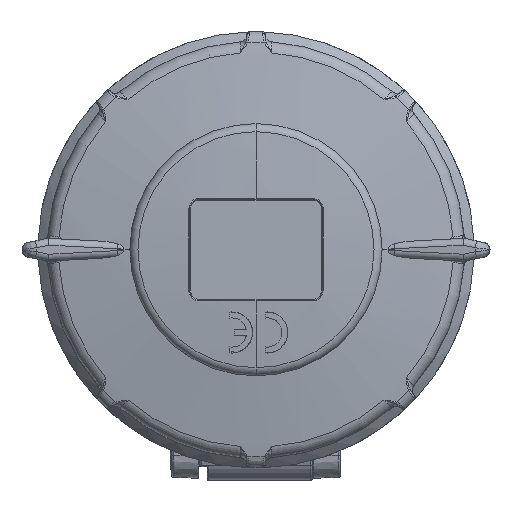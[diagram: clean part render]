
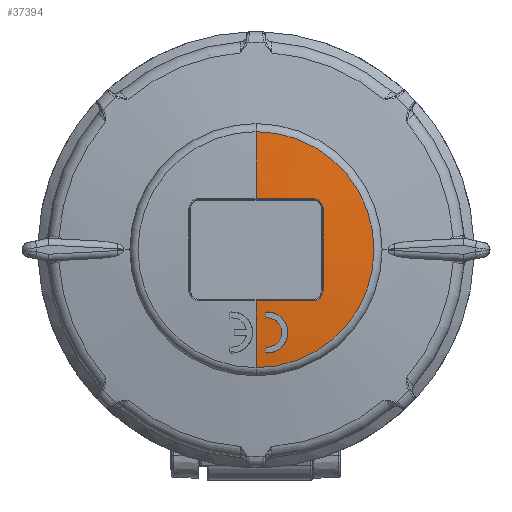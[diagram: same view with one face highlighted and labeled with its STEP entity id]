
A CAD part, top view. The second image highlights one B-rep face of the part: STEP entity #37394.
In plain terms, the highlighted spherical face has radius 232.5 mm.
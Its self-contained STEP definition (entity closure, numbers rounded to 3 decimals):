
#3078=CARTESIAN_POINT('',(0.,11.21,-217.065));
#3079=DIRECTION('',(0.,1.,0.));
#3080=DIRECTION('',(0.,0.,1.));
#3081=AXIS2_PLACEMENT_3D('',#3078,#3079,#3080);
#3083=CARTESIAN_POINT('',(0.,0.,13.991));
#3084=DIRECTION('',(0.,0.,1.));
#3085=DIRECTION('',(0.,-1.,0.));
#3086=AXIS2_PLACEMENT_3D('',#3083,#3084,#3085);
#3088=CARTESIAN_POINT('',(0.,-11.21,-217.065));
#3089=DIRECTION('',(0.,-1.,0.));
#3090=DIRECTION('',(0.054,0.,0.999));
#3091=AXIS2_PLACEMENT_3D('',#3088,#3089,#3090);
#3093=CARTESIAN_POINT('',(14.713,-9.008,14.795));
#3094=CARTESIAN_POINT('',(14.713,-9.152,14.789));
#3095=CARTESIAN_POINT('',(14.685,-9.437,14.779));
#3096=CARTESIAN_POINT('',(14.559,-9.854,14.77));
#3097=CARTESIAN_POINT('',(14.354,-10.237,14.766));
#3098=CARTESIAN_POINT('',(14.079,-10.573,14.768));
#3099=CARTESIAN_POINT('',(13.743,-10.849,14.775));
#3100=CARTESIAN_POINT('',(13.36,-11.055,14.788));
#3101=CARTESIAN_POINT('',(12.943,-11.181,14.806));
#3102=CARTESIAN_POINT('',(12.656,-11.21,14.82));
#3103=CARTESIAN_POINT('',(12.511,-11.21,14.828));
#3105=CARTESIAN_POINT('',(14.713,0.,
-217.065));
#3106=DIRECTION('',(1.,0.,0.));
#3107=DIRECTION('',(0.,0.039,0.999));
#3108=AXIS2_PLACEMENT_3D('',#3105,#3106,#3107);
#3110=CARTESIAN_POINT('',(12.511,11.21,14.828));
#3111=CARTESIAN_POINT('',(12.656,11.21,14.82));
#3112=CARTESIAN_POINT('',(12.942,11.181,14.806));
#3113=CARTESIAN_POINT('',(13.358,11.055,14.788));
#3114=CARTESIAN_POINT('',(13.741,10.851,14.775));
#3115=CARTESIAN_POINT('',(14.077,10.576,14.768));
#3116=CARTESIAN_POINT('',(14.353,10.24,14.766));
#3117=CARTESIAN_POINT('',(14.558,9.857,14.77));
#3118=CARTESIAN_POINT('',(14.684,9.44,14.779));
#3119=CARTESIAN_POINT('',(14.713,9.153,14.789));
#3120=CARTESIAN_POINT('',(14.713,9.008,14.795));
#3122=CARTESIAN_POINT('',(2.,-22.634,14.322));
#3123=CARTESIAN_POINT('',(2.253,-22.66,14.318));
#3124=CARTESIAN_POINT('',(2.762,-22.668,14.312));
#3125=CARTESIAN_POINT('',(3.518,-22.551,14.313));
#3126=CARTESIAN_POINT('',(4.243,-22.308,14.324));
#3127=CARTESIAN_POINT('',(4.917,-21.946,14.346));
#3128=CARTESIAN_POINT('',(5.52,-21.476,14.376));
#3129=CARTESIAN_POINT('',(6.036,-20.911,14.415));
#3130=CARTESIAN_POINT('',(6.45,-20.265,14.461));
#3131=CARTESIAN_POINT('',(6.749,-19.56,14.513));
#3132=CARTESIAN_POINT('',(6.924,-18.812,14.57));
#3133=CARTESIAN_POINT('',(6.97,-18.048,14.63));
#3134=CARTESIAN_POINT('',(6.887,-17.283,14.69));
#3135=CARTESIAN_POINT('',(6.673,-16.543,14.751));
#3136=CARTESIAN_POINT('',(6.354,-15.882,14.806));
#3137=CARTESIAN_POINT('',(5.971,-15.33,14.853));
#3138=CARTESIAN_POINT('',(5.541,-14.868,14.894));
#3139=CARTESIAN_POINT('',(5.069,-14.481,14.929));
#3140=CARTESIAN_POINT('',(4.554,-14.163,14.959));
#3141=CARTESIAN_POINT('',(3.988,-13.913,14.985));
#3142=CARTESIAN_POINT('',(3.369,-13.735,15.005));
#3143=CARTESIAN_POINT('',(2.698,-13.646,15.019));
#3144=CARTESIAN_POINT('',(2.234,-13.656,15.023));
#3145=CARTESIAN_POINT('',(2.,-13.68,15.024));
#3147=CARTESIAN_POINT('',(2.,0.,-217.065));
#3148=DIRECTION('',(-1.,0.,0.));
#3149=DIRECTION('',(0.,-0.064,0.998));
#3150=AXIS2_PLACEMENT_3D('',#3147,#3148,#3149);
#3152=CARTESIAN_POINT('',(2.,-14.985,14.943));
#3153=CARTESIAN_POINT('',(2.186,-14.958,14.944));
#3154=CARTESIAN_POINT('',(2.558,-14.939,14.941));
#3155=CARTESIAN_POINT('',(3.1,-15.005,14.93));
#3156=CARTESIAN_POINT('',(3.603,-15.153,14.913));
#3157=CARTESIAN_POINT('',(4.055,-15.37,14.892));
#3158=CARTESIAN_POINT('',(4.458,-15.644,14.866));
#3159=CARTESIAN_POINT('',(4.812,-15.974,14.836));
#3160=CARTESIAN_POINT('',(5.118,-16.359,14.803));
#3161=CARTESIAN_POINT('',(5.37,-16.804,14.765));
#3162=CARTESIAN_POINT('',(5.558,-17.315,14.723));
#3163=CARTESIAN_POINT('',(5.66,-17.881,14.678));
#3164=CARTESIAN_POINT('',(5.657,-18.463,14.632));
#3165=CARTESIAN_POINT('',(5.55,-19.031,14.589));
#3166=CARTESIAN_POINT('',(5.344,-19.573,14.549));
#3167=CARTESIAN_POINT('',(5.044,-20.067,14.513));
#3168=CARTESIAN_POINT('',(4.661,-20.5,14.483));
#3169=CARTESIAN_POINT('',(4.207,-20.857,14.46));
#3170=CARTESIAN_POINT('',(3.697,-21.127,14.444));
#3171=CARTESIAN_POINT('',(3.147,-21.302,14.436));
#3172=CARTESIAN_POINT('',(2.574,-21.376,14.437));
#3173=CARTESIAN_POINT('',(2.19,-21.356,14.442));
#3174=CARTESIAN_POINT('',(2.,-21.329,14.446));
#3176=CARTESIAN_POINT('',(2.,0.,-217.065));
#3177=DIRECTION('',(-1.,0.,0.));
#3178=DIRECTION('',(0.,-0.097,0.995));
#3179=AXIS2_PLACEMENT_3D('',#3176,#3177,#3178);
#3316=CARTESIAN_POINT('',(0.,0.,-217.065));
#3317=DIRECTION('',(-1.,0.,0.));
#3318=DIRECTION('',(0.,-0.111,0.994));
#3319=AXIS2_PLACEMENT_3D('',#3316,#3317,#3318);
#3326=CARTESIAN_POINT('',(0.,0.,-217.065));
#3327=DIRECTION('',(1.,0.,0.));
#3328=DIRECTION('',(0.,0.111,0.994));
#3329=AXIS2_PLACEMENT_3D('',#3326,#3327,#3328);
#27690=CARTESIAN_POINT('',(0.,-25.875,13.991));
#27691=CARTESIAN_POINT('',(0.,25.875,13.991));
#27692=VERTEX_POINT('',#27690);
#27693=VERTEX_POINT('',#27691);
#27698=CARTESIAN_POINT('',(0.,-11.21,15.165));
#27700=VERTEX_POINT('',#27698);
#27711=CARTESIAN_POINT('',(0.,11.21,15.165));
#27712=VERTEX_POINT('',#27711);
#27713=CARTESIAN_POINT('',(12.511,11.21,14.828));
#27714=VERTEX_POINT('',#27713);
#27715=VERTEX_POINT('',#3120);
#27718=CARTESIAN_POINT('',(14.713,-9.008,
14.795));
#27719=VERTEX_POINT('',#27718);
#27722=VERTEX_POINT('',#3103);
#27892=VERTEX_POINT('',#3122);
#27893=VERTEX_POINT('',#3145);
#27894=CARTESIAN_POINT('',(2.,-14.985,14.943));
#27895=VERTEX_POINT('',#27894);
#27896=VERTEX_POINT('',#3174);
#37362=CARTESIAN_POINT('',(0.,0.,-217.065));
#37363=DIRECTION('',(0.,0.,1.));
#37364=DIRECTION('',(0.,-1.,0.));
#37365=AXIS2_PLACEMENT_3D('',#37362,#37363,#37364);
#37366=SPHERICAL_SURFACE('718',#37365,232.5);
#37368=ORIENTED_EDGE('3673',*,*,#37367,.F.);
#37370=ORIENTED_EDGE('3682',*,*,#37369,.F.);
#37371=ORIENTED_EDGE('3659',*,*,#37345,.F.);
#37373=ORIENTED_EDGE('3681',*,*,#37372,.T.);
#37375=ORIENTED_EDGE('3680',*,*,#37374,.F.);
#37377=ORIENTED_EDGE('3678',*,*,#37376,.F.);
#37379=ORIENTED_EDGE('3676',*,*,#37378,.F.);
#37381=ORIENTED_EDGE('3674',*,*,#37380,.F.);
#37382=EDGE_LOOP('718',(#37368,#37370,#37371,#37373,#37375,#37377,#37379,
#37381));
#37383=FACE_OUTER_BOUND('718',#37382,.F.);
#37385=ORIENTED_EDGE('3827',*,*,#37384,.T.);
#37387=ORIENTED_EDGE('3828',*,*,#37386,.F.);
#37389=ORIENTED_EDGE('3829',*,*,#37388,.T.);
#37391=ORIENTED_EDGE('3830',*,*,#37390,.F.);
#37392=EDGE_LOOP('718',(#37385,#37387,#37389,#37391));
#37393=FACE_BOUND('718',#37392,.F.);
#3082=CIRCLE('3673',#3081,232.23);
#3087=CIRCLE('3659',#3086,25.875);
#3092=CIRCLE('3680',#3091,232.23);
#3104=B_SPLINE_CURVE_WITH_KNOTS('3678',3,(#3093,#3094,#3095,#3096,#3097,#3098,
#3099,#3100,#3101,#3102,#3103),.UNSPECIFIED.,.F.,.F.,(4,1,1,1,1,1,1,1,4),(0.,
0.125,0.25,0.375,0.5,0.625,0.75,0.875,1.),.UNSPECIFIED.);
#3109=CIRCLE('3676',#3108,232.034);
#3121=B_SPLINE_CURVE_WITH_KNOTS('3674',3,(#3110,#3111,#3112,#3113,#3114,#3115,
#3116,#3117,#3118,#3119,#3120),.UNSPECIFIED.,.F.,.F.,(4,1,1,1,1,1,1,1,4),(0.,
0.125,0.25,0.375,0.5,0.625,0.75,0.875,1.),.UNSPECIFIED.);
#3146=B_SPLINE_CURVE_WITH_KNOTS('3827',3,(#3122,#3123,#3124,#3125,#3126,#3127,
#3128,#3129,#3130,#3131,#3132,#3133,#3134,#3135,#3136,#3137,#3138,#3139,#3140,
#3141,#3142,#3143,#3144,#3145),.UNSPECIFIED.,.F.,.F.,(4,1,1,1,1,1,1,1,1,1,1,1,1,
1,1,1,1,1,1,1,1,4),(0.,0.048,0.095,0.143,
0.19,0.238,0.286,0.333,
0.381,0.429,0.476,0.524,
0.571,0.619,0.667,0.714,
0.762,0.81,0.857,0.905,
0.952,1.),.UNSPECIFIED.);
#3151=CIRCLE('3828',#3150,232.491);
#3175=B_SPLINE_CURVE_WITH_KNOTS('3829',3,(#3152,#3153,#3154,#3155,#3156,#3157,
#3158,#3159,#3160,#3161,#3162,#3163,#3164,#3165,#3166,#3167,#3168,#3169,#3170,
#3171,#3172,#3173,#3174),.UNSPECIFIED.,.F.,.F.,(4,1,1,1,1,1,1,1,1,1,1,1,1,1,1,1,
1,1,1,1,4),(0.,0.05,0.1,0.15,0.2,0.25,0.3,0.35,0.4,0.45,
0.5,0.55,0.6,0.65,0.7,0.75,0.8,0.85,0.9,0.95,1.),
.UNSPECIFIED.);
#3180=CIRCLE('3830',#3179,232.491);
#3320=CIRCLE('3681',#3319,232.5);
#3330=CIRCLE('3682',#3329,232.5);
#37345=EDGE_CURVE('3659',#27692,#27693,#3087,.T.);
#37367=EDGE_CURVE('3673',#27712,#27714,#3082,.T.);
#37369=EDGE_CURVE('3682',#27693,#27712,#3330,.T.);
#37372=EDGE_CURVE('3681',#27692,#27700,#3320,.T.);
#37374=EDGE_CURVE('3680',#27722,#27700,#3092,.T.);
#37376=EDGE_CURVE('3678',#27719,#27722,#3104,.T.);
#37378=EDGE_CURVE('3676',#27715,#27719,#3109,.T.);
#37380=EDGE_CURVE('3674',#27714,#27715,#3121,.T.);
#37384=EDGE_CURVE('3827',#27892,#27893,#3146,.T.);
#37386=EDGE_CURVE('3828',#27895,#27893,#3151,.T.);
#37388=EDGE_CURVE('3829',#27895,#27896,#3175,.T.);
#37390=EDGE_CURVE('3830',#27892,#27896,#3180,.T.);
#37394=ADVANCED_FACE('718',(#37383,#37393),#37366,.T.);
